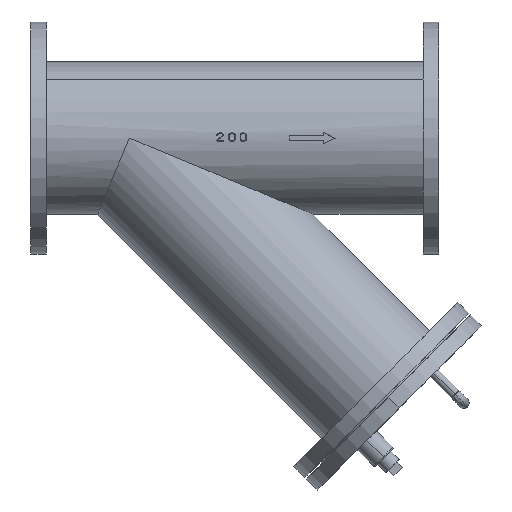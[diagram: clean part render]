
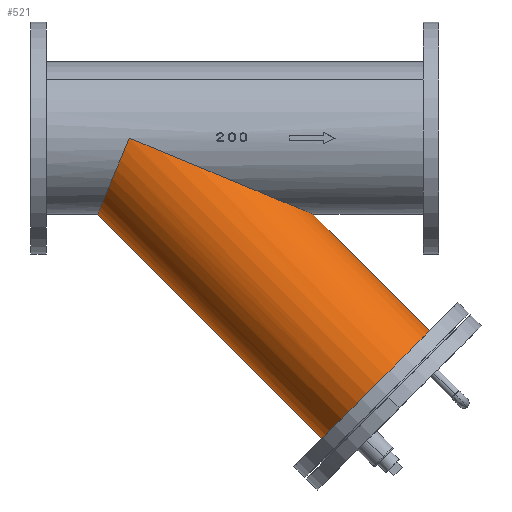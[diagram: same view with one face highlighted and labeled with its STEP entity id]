
A CAD part, front view. The second image highlights one B-rep face of the part: STEP entity #521.
In plain terms, the highlighted cylindrical face has radius 108.15 mm (diameter 216.3 mm), a partial arc.
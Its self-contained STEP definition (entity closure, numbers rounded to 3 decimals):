
#521=ADVANCED_FACE('',(#1742),#1741,.T.);
#1741=CYLINDRICAL_SURFACE('',#4462,108.15);
#1742=FACE_OUTER_BOUND('',#4463,.T.);
#4459=CARTESIAN_POINT('',(70.,0.,70.));
#4460=DIRECTION('',(-0.707,0.,0.707));
#4461=DIRECTION('',(0.707,0.,0.707));
#4462=AXIS2_PLACEMENT_3D('',#4459,#4460,#4461);
#4463=EDGE_LOOP('',(#5653,#5654,#5655,#5656));
#5653=ORIENTED_EDGE('',*,*,#6229,.F.);
#5654=ORIENTED_EDGE('',*,*,#6420,.T.);
#5655=ORIENTED_EDGE('',*,*,#6422,.F.);
#5656=ORIENTED_EDGE('',*,*,#6421,.F.);
#6229=EDGE_CURVE('',#7644,#7643,#7651,.T.);
#6420=EDGE_CURVE('',#7644,#8912,#8920,.T.);
#6421=EDGE_CURVE('',#7643,#8913,#8926,.T.);
#6422=EDGE_CURVE('',#8913,#8912,#8932,.T.);
#7643=VERTEX_POINT('',#10954);
#7644=VERTEX_POINT('',#10955);
#7651=CIRCLE('',#10963,108.15);
#8912=VERTEX_POINT('',#12132);
#8913=VERTEX_POINT('',#12133);
#8920=(BOUNDED_CURVE() B_SPLINE_CURVE(1,(#12194,#12195),.UNSPECIFIED.,.F.,.F.) B_SPLINE_CURVE_WITH_KNOTS((2,2),(0.019,0.474),.UNSPECIFIED.) CURVE() GEOMETRIC_REPRESENTATION_ITEM() RATIONAL_B_SPLINE_CURVE((1.,1.)) REPRESENTATION_ITEM('') );
#8926=(BOUNDED_CURVE() B_SPLINE_CURVE(1,(#12196,#12197),.UNSPECIFIED.,.F.,.F.) B_SPLINE_CURVE_WITH_KNOTS((2,2),(0.019,0.894),.UNSPECIFIED.) CURVE() GEOMETRIC_REPRESENTATION_ITEM() RATIONAL_B_SPLINE_CURVE((0.75,0.75)) REPRESENTATION_ITEM('') );
#8932=(BOUNDED_CURVE() B_SPLINE_CURVE(3,(#12198,#12199,#12200,#12201,#12202,#12203,#12204,#12205,#12206,#12207,#12208,#12209,#12210,#12211,#12212,#12213,#12214,#12215,#12216,#12217,#12218,#12219,#12220,#12221,#12222,#12223,#12224,#12225,#12226,#12227,#12228,#12229,#12230,#12231,#12232,#12233,#12234,#12235,#12236,#12237,#12238,#12239,#12240,#12241,#12242,#12243,#12244,#12245,#12246,#12247,#12248,#12249,#12250,#12251,#12252,#12253,#12254,#12255),.UNSPECIFIED.,.F.,.F.) B_SPLINE_CURVE_WITH_KNOTS((4,1,1,2,1,1,1,2,1,2,1,1,1,1,1,1,1,1,1,1,1,1,2,1,1,1,2,1,1,1,1,1,1,1,1,1,1,1,1,1,2,1,1,1,2,1,1,1,4),(0.,0.015,0.034,0.037,0.045,0.067,0.071,0.075,0.101,0.105,0.12,0.139,0.142,0.15,0.157,0.165,0.175,0.176,0.176,0.176,0.176,0.176,0.176,0.176,0.177,0.178,0.18,0.21,0.24,0.255,0.27,0.3,0.33,0.345,0.367,0.374,0.389,0.404,0.419,0.431,0.434,0.442,0.449,0.461,0.464,0.476,0.477,0.479,0.485),.UNSPECIFIED.) CURVE() GEOMETRIC_REPRESENTATION_ITEM() RATIONAL_B_SPLINE_CURVE((1.,1.,1.,1.,1.,1.,1.,1.,1.,1.,1.,1.,1.,1.,1.,1.,1.,1.,1.,1.,1.,1.,1.,1.,1.,1.,1.,1.,1.,1.,1.,1.,1.,1.,1.,1.,1.,1.,1.,1.,1.,1.,1.,1.,1.,1.,1.,1.,1.,1.,1.,1.,1.,1.,1.,1.,1.,1.)) REPRESENTATION_ITEM('') );
#10954=CARTESIAN_POINT('',(413.986,0.,-426.933));
#10955=CARTESIAN_POINT('',(566.933,0.,-273.986));
#10960=CARTESIAN_POINT('',(490.459,0.,-350.459));
#10961=DIRECTION('',(0.707,0.,-0.707));
#10962=DIRECTION('',(-0.707,0.,-0.707));
#10963=AXIS2_PLACEMENT_3D('',#10960,#10961,#10962);
#12132=CARTESIAN_POINT('',(401.097,0.,-108.15));
#12133=CARTESIAN_POINT('',(95.203,0.,-108.15));
#12194=CARTESIAN_POINT('',(566.933,0.,-273.986));
#12195=CARTESIAN_POINT('',(401.097,0.,-108.15));
#12196=CARTESIAN_POINT('',(413.986,0.,-426.933));
#12197=CARTESIAN_POINT('',(95.203,0.,-108.15));
#12198=CARTESIAN_POINT('',(95.203,0.,-108.15));
#12199=CARTESIAN_POINT('',(95.203,-5.068,-108.15));
#12200=CARTESIAN_POINT('',(95.533,-16.32,-107.353));
#12201=CARTESIAN_POINT('',(96.686,-28.467,-104.568));
#12202=CARTESIAN_POINT('',(97.697,-35.607,-102.128));
#12203=CARTESIAN_POINT('',(98.225,-39.129,-100.854));
#12204=CARTESIAN_POINT('',(99.757,-48.339,-97.156));
#12205=CARTESIAN_POINT('',(102.023,-57.913,-91.685));
#12206=CARTESIAN_POINT('',(104.446,-65.829,-85.834));
#12207=CARTESIAN_POINT('',(105.074,-67.735,-84.32));
#12208=CARTESIAN_POINT('',(107.63,-75.244,-78.148));
#12209=CARTESIAN_POINT('',(110.497,-81.869,-71.226));
#12210=CARTESIAN_POINT('',(113.697,-87.553,-63.501));
#12211=CARTESIAN_POINT('',(115.72,-91.012,-58.618));
#12212=CARTESIAN_POINT('',(119.478,-96.569,-49.545));
#12213=CARTESIAN_POINT('',(123.931,-101.162,-38.794));
#12214=CARTESIAN_POINT('',(127.642,-104.,-29.836));
#12215=CARTESIAN_POINT('',(129.991,-105.494,-24.164));
#12216=CARTESIAN_POINT('',(132.84,-106.836,-17.285));
#12217=CARTESIAN_POINT('',(136.088,-107.845,-9.446));
#12218=CARTESIAN_POINT('',(138.459,-108.136,-3.722));
#12219=CARTESIAN_POINT('',(139.877,-108.15,-0.308));
#12220=CARTESIAN_POINT('',(139.987,-108.15,-0.099));
#12221=CARTESIAN_POINT('',(140.035,-108.15,-0.057));
#12222=CARTESIAN_POINT('',(140.102,-108.15,-0.066));
#12223=CARTESIAN_POINT('',(140.177,-108.15,-0.087));
#12224=CARTESIAN_POINT('',(140.236,-108.15,-0.109));
#12225=CARTESIAN_POINT('',(140.426,-108.15,-0.181));
#12226=CARTESIAN_POINT('',(140.727,-108.15,-0.306));
#12227=CARTESIAN_POINT('',(141.33,-108.149,-0.552));
#12228=CARTESIAN_POINT('',(142.383,-108.146,-0.99));
#12229=CARTESIAN_POINT('',(143.287,-108.142,-1.362));
#12230=CARTESIAN_POINT('',(153.521,-108.079,-5.599));
#12231=CARTESIAN_POINT('',(172.78,-107.519,-13.579));
#12232=CARTESIAN_POINT('',(196.778,-105.7,-23.518));
#12233=CARTESIAN_POINT('',(215.941,-103.537,-31.456));
#12234=CARTESIAN_POINT('',(235.004,-100.888,-39.352));
#12235=CARTESIAN_POINT('',(258.64,-96.636,-49.142));
#12236=CARTESIAN_POINT('',(281.986,-90.969,-58.812));
#12237=CARTESIAN_POINT('',(302.763,-84.727,-67.419));
#12238=CARTESIAN_POINT('',(316.466,-79.846,-73.095));
#12239=CARTESIAN_POINT('',(330.027,-74.252,-78.712));
#12240=CARTESIAN_POINT('',(341.096,-69.152,-83.297));
#12241=CARTESIAN_POINT('',(353.974,-62.197,-88.631));
#12242=CARTESIAN_POINT('',(365.307,-54.885,-93.325));
#12243=CARTESIAN_POINT('',(373.16,-48.783,-96.578));
#12244=CARTESIAN_POINT('',(376.94,-45.443,-98.144));
#12245=CARTESIAN_POINT('',(379.72,-42.899,-99.295));
#12246=CARTESIAN_POINT('',(383.303,-39.387,-100.78));
#12247=CARTESIAN_POINT('',(389.07,-32.757,-103.168));
#12248=CARTESIAN_POINT('',(393.367,-26.452,-104.948));
#12249=CARTESIAN_POINT('',(395.759,-21.79,-105.939));
#12250=CARTESIAN_POINT('',(397.973,-17.065,-106.856));
#12251=CARTESIAN_POINT('',(399.478,-12.753,-107.479));
#12252=CARTESIAN_POINT('',(400.479,-7.526,-107.894));
#12253=CARTESIAN_POINT('',(400.941,-4.367,-108.085));
#12254=CARTESIAN_POINT('',(401.097,-1.857,-108.15));
#12255=CARTESIAN_POINT('',(401.097,0.,-108.15));
